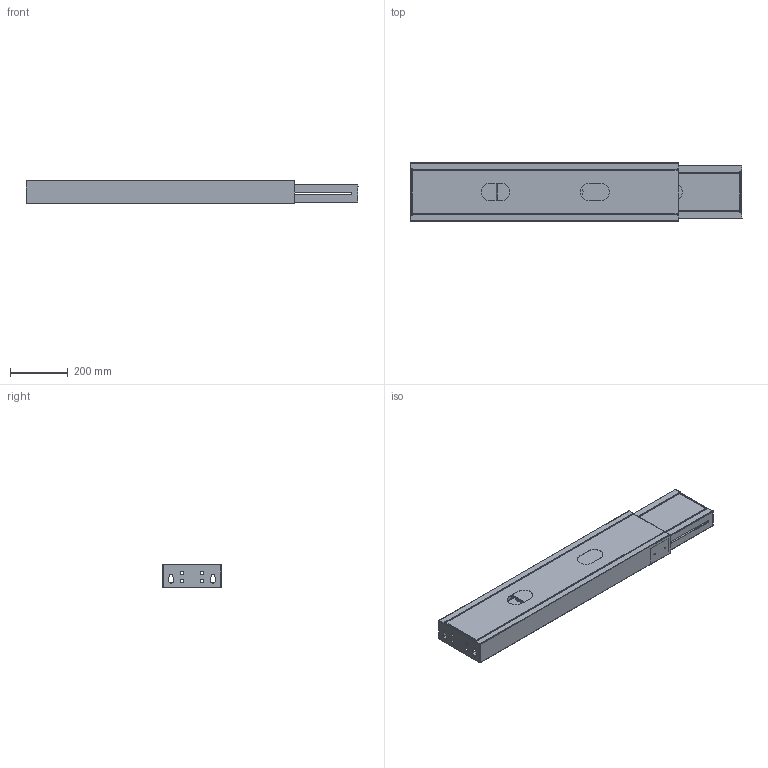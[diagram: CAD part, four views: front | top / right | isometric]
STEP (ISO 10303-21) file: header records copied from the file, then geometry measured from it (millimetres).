
FILE_DESCRIPTION(('CATIA V5 STEP Exchange'),'2;1');
FILE_NAME('F:\胡亚菊\工作\2020年设计申请单\陈丹\T031\桌架图\SSXC-T031.stp','2020-03-09T01:24:21+00:00',('none'),('none'),'CATIA Version 5 Release 21 GA (IN-10)','CATIA V5 STEP AP203','none');
FILE_SCHEMA(('CONFIG_CONTROL_DESIGN'));
Length unit declared in the file: millimetre
Products named in the file (2): SSXC; AK-WXC04-930_WC
Assembly tree (7 placements, depth 3):
  SSXC
    AK-WXC04-930_WC
      #66  x2
      #386
    #5209
    #11302
    #14353
Bounding box: 1149.34 x 202 x 80 mm (x, y, z)
Volume: 1236195 mm3; surface area: 1990764.4 mm2
Topology: 6 solids, 6 shells, 612 faces, 1536 edges, 936 vertices
Faces by surface type: plane 375, cylinder 220, bspline 17
Entity records: 18450 total; most frequent: CARTESIAN_POINT 4383, ORIENTED_EDGE 3024, DIRECTION 2511, EDGE_CURVE 1512, VECTOR 1060, LINE 1060, VERTEX_POINT 920, AXIS2_PLACEMENT_3D 915
